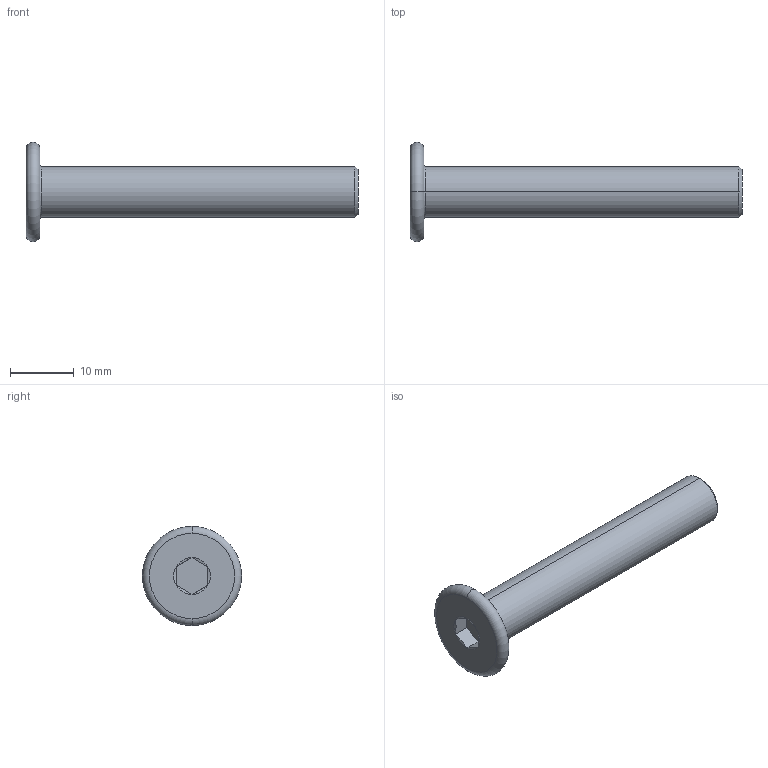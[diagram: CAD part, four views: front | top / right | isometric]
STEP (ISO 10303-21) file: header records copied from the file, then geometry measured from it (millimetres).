
FILE_DESCRIPTION (( 'STEP AP203' ), '1' );
FILE_NAME ('LGD-304M-M8x50.STEP', '2026-08-13T13:32:28', ( '' ), ( '' ), 'SwSTEP 2.0', 'SolidWorks 2020', '' );
FILE_SCHEMA (( 'CONFIG_CONTROL_DESIGN' ));
Length unit declared in the file: millimetre
Products named in the file (1): LGD-304M-M8x50
Bounding box: 52.2 x 15.6 x 15.6 mm (x, y, z)
Volume: 2852 mm3; surface area: 1731.8 mm2
Topology: 1 solids, 1 shells, 24 faces, 44 edges, 24 vertices
Faces by surface type: plane 10, cone 8, torus 4, cylinder 2
Entity records: 673 total; most frequent: CARTESIAN_POINT 119, DIRECTION 110, ORIENTED_EDGE 88, AXIS2_PLACEMENT_3D 47, EDGE_CURVE 44, EDGE_LOOP 26, VERTEX_POINT 24, ADVANCED_FACE 24
